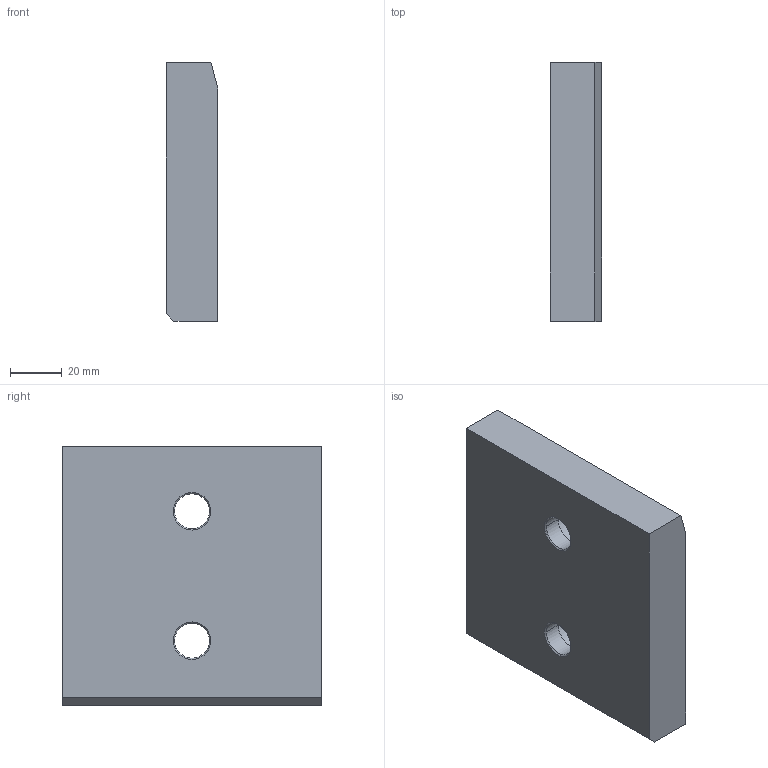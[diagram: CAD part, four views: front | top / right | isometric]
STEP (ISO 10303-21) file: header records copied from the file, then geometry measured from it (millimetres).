
FILE_DESCRIPTION (( 'STEP AP214' ), '1' );
FILE_NAME ('SW225-01-100x100.STEP', '2020-10-21T10:05:34', ( 'August' ), ( '' ), 'SwSTEP 2.0', 'SolidWorks 2018', '' );
FILE_SCHEMA (( 'AUTOMOTIVE_DESIGN' ));
Length unit declared in the file: millimetre
Products named in the file (1): SW225-01-100x100
Bounding box: 20 x 100 x 100 mm (x, y, z)
Volume: 188009.5 mm3; surface area: 29149.5 mm2
Topology: 1 solids, 1 shells, 27 faces, 61 edges, 38 vertices
Faces by surface type: plane 10, cylinder 9, cone 8
Entity records: 799 total; most frequent: DIRECTION 143, CARTESIAN_POINT 127, ORIENTED_EDGE 122, EDGE_CURVE 61, AXIS2_PLACEMENT_3D 54, VERTEX_POINT 38, LINE 35, VECTOR 35
